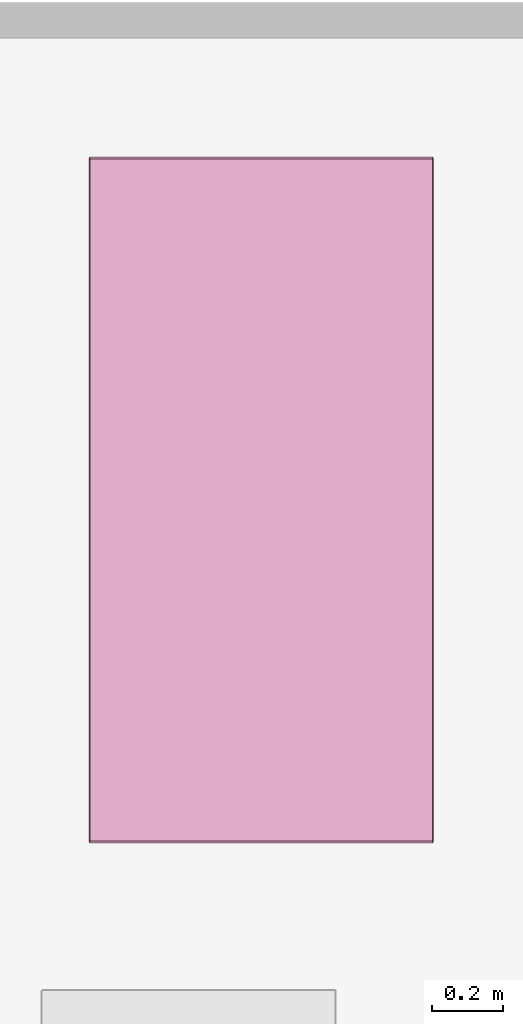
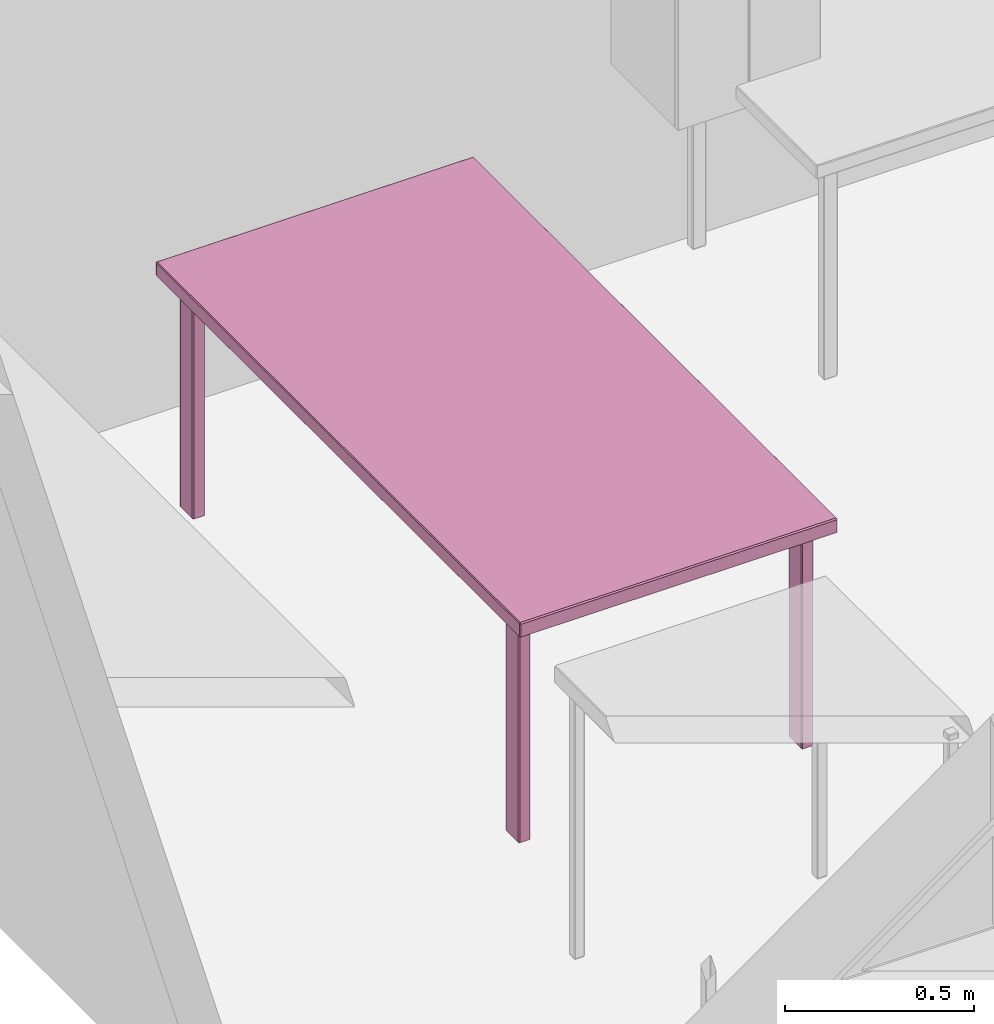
# One storey, part 7 of 9: 1 furnishing.
"""IFC2X3 building model written with IfcOpenShell, lengths in metres."""

import ifcopenshell
import ifcopenshell.guid

model = None  # the IFC model being written
_history = None  # IfcOwnerHistory: only IFC2X3 demands one
_inside = {}  # id of a spatial element -> (the spatial element, [elements in it])
_under = {}  # id of a project, library or spatial element -> (it, [spatial elements below it])
_declared = {}  # id of a project -> (the project, [libraries it declares])
_typed = {}  # id of a type object -> (the type object, [elements of that type])
_made_of = {}  # id of a material, layer set ... -> (it, [elements and type objects made of it])


def new_model(schema):
    """Start an empty IFC model of exactly this schema.

    Asked for "IFC4X3", IfcOpenShell would pick the latest addendum, in which some entities
    have other attributes; the version numbers below select the first issue.
    IFC2X3 requires an IfcOwnerHistory on every rooted entity: one is made here for all.
    """
    global model, _history
    if schema == "IFC4X3":
        model = ifcopenshell.file(schema_version=(4, 3, 0, 0))
    else:
        model = ifcopenshell.file(schema=schema)
    _inside.clear()
    _under.clear()
    _declared.clear()
    _typed.clear()
    _made_of.clear()
    _history = None
    if model.schema == "IFC2X3":
        org = make("IfcOrganization", Name="unknown")
        user = make(
            "IfcPersonAndOrganization",
            ThePerson=make("IfcPerson", FamilyName="unknown"),
            TheOrganization=org,
        )
        app = make(
            "IfcApplication",
            ApplicationDeveloper=org,
            Version="unknown",
            ApplicationFullName="unknown",
            ApplicationIdentifier="unknown",
        )
        _history = make(
            "IfcOwnerHistory",
            OwningUser=user,
            OwningApplication=app,
            ChangeAction="ADDED",
            CreationDate=0,
        )
    return model


def make(cls, **values):
    """One entity of the class cls with the attributes given. An attribute that is None is left unset."""
    return model.create_entity(
        cls, **{name: value for name, value in values.items() if value is not None}
    )


def rooted(cls, **values):
    """An entity with a GlobalId (a new one), such as an element, a storey or a relation."""
    return make(cls, GlobalId=ifcopenshell.guid.new(), OwnerHistory=_history, **values)


def si_unit(unit_type, name, prefix=None):
    """IfcSIUnit, for example si_unit("LENGTHUNIT", "METRE", prefix="MILLI")."""
    return make("IfcSIUnit", UnitType=unit_type, Prefix=prefix, Name=name)


def assignment(units):
    """IfcUnitAssignment: the units of a project."""
    return None if units is None else make("IfcUnitAssignment", Units=units)


def point(xyz):
    """IfcCartesianPoint."""
    return None if xyz is None else make("IfcCartesianPoint", Coordinates=xyz)


def direction(xyz):
    """IfcDirection."""
    return None if xyz is None else make("IfcDirection", DirectionRatios=xyz)


def frame(location, z_axis=None, x_axis=None):
    """IfcAxis2Placement3D, a coordinate frame: its origin and axes. An axis left out is left unset."""
    return make(
        "IfcAxis2Placement3D",
        Location=point(location),
        Axis=direction(z_axis),
        RefDirection=direction(x_axis),
    )


def origin_with_axes():
    """The frame at (0, 0, 0) with the z axis (0, 0, 1) and the x axis (1, 0, 0) written out."""
    return frame((0.0, 0.0, 0.0), z_axis=(0.0, 0.0, 1.0), x_axis=(1.0, 0.0, 0.0))


def place(relative_to, where):
    """IfcLocalPlacement: puts the frame where relative to a parent placement (None: the world)."""
    return make(
        "IfcLocalPlacement", PlacementRelTo=relative_to, RelativePlacement=where
    )


def context(
    kind, dimensions, precision=None, world=None, true_north=None, identifier=None
):
    """IfcGeometricRepresentationContext, for example the 3D "Model" context."""
    return make(
        "IfcGeometricRepresentationContext",
        ContextIdentifier=identifier,
        ContextType=kind,
        CoordinateSpaceDimension=dimensions,
        Precision=precision,
        WorldCoordinateSystem=world,
        TrueNorth=true_north,
    )


def project(units=None, contexts=None):
    """IfcProject with its units and contexts."""
    return rooted(
        "IfcProject",
        Name="project",
        RepresentationContexts=contexts,
        UnitsInContext=assignment(units),
    )


def spatial(cls, under=None, at=None, **own):
    """A site, building, storey or space (cls), placed at a placement, below another one or the project."""
    s = rooted(cls, ObjectPlacement=at, **own)
    if under is not None:
        _under.setdefault(under.id(), (under, []))[1].append(s)
    return s


def faces_of(points, faces, orient=None, outer=None):
    """IfcFace entities. A face is a list of loops; a loop is a list of indices into points, from 0.

    orient and outer hold one flag for each loop. By default every Orientation is true, the
    first loop of a face is its IfcFaceOuterBound and the others are IfcFaceBound.
    """
    made = []
    for i, loops in enumerate(faces):
        bounds = []
        for j, loop in enumerate(loops):
            is_outer = j == 0 if outer is None else outer[i][j]
            bounds.append(
                make(
                    "IfcFaceOuterBound" if is_outer else "IfcFaceBound",
                    Bound=make("IfcPolyLoop", Polygon=[points[k] for k in loop]),
                    Orientation=True if orient is None else orient[i][j],
                )
            )
        made.append(make("IfcFace", Bounds=bounds))
    return made


def faceted_brep(points, faces, orient=None, outer=None, voids=None):
    """IfcFacetedBrep: a solid bounded by flat faces; with voids (closed shells), ...WithVoids."""
    shared = [point(p) for p in points]
    hull = make("IfcClosedShell", CfsFaces=faces_of(shared, faces, orient, outer))
    if voids is None:
        return make("IfcFacetedBrep", Outer=hull)
    return make(
        "IfcFacetedBrepWithVoids",
        Outer=hull,
        Voids=[
            make(cls, CfsFaces=faces_of(shared, fs, o, b)) for cls, fs, o, b in voids
        ],
    )


def shape(context_of_items, identifier, shape_type, items):
    """IfcShapeRepresentation: the items that make up one representation, for example the "Body"."""
    return make(
        "IfcShapeRepresentation",
        ContextOfItems=context_of_items,
        RepresentationIdentifier=identifier,
        RepresentationType=shape_type,
        Items=items,
    )


def made_of(thing, what):
    """Note that an element or type object is made of a material, layer set ...; save() writes the relation."""
    if what is not None:
        _made_of.setdefault(what.id(), (what, []))[1].append(thing)
    return thing


def type_object(cls, material=None, **own):
    """A type object (cls), such as IfcWallType, which elements share."""
    return made_of(rooted(cls, **own), material)


def element(
    cls,
    number,
    at=None,
    inside=None,
    cuts=None,
    type_object=None,
    material=None,
    context=None,
    identifier="Body",
    shape_type=None,
    held_by="IfcProductDefinitionShape",
    body=None,
    shapes=None,
    **own,
):
    """One element of the class cls, such as IfcWall. Its Tag is "e" and its number.

    at: its placement. inside: the storey or other place that contains it. cuts: it is an
    opening in that element (IfcRelVoidsElement). A single representation is given by context,
    identifier, shape_type and body (its items); several are given by shapes. held_by: the class
    of the entity that holds the representations. save() writes the other relations.
    """
    e = rooted(cls, Tag="e%d" % number, ObjectPlacement=at, **own)
    if body is not None:
        shapes = [shape(context, identifier, shape_type, body)]
    if shapes is not None:
        e.Representation = make(held_by, Representations=shapes)
    if inside is not None:
        _inside.setdefault(inside.id(), (inside, []))[1].append(e)
    if cuts is not None:
        rooted(
            "IfcRelVoidsElement", RelatingBuildingElement=cuts, RelatedOpeningElement=e
        )
    if type_object is not None:
        _typed.setdefault(type_object.id(), (type_object, []))[1].append(e)
    return made_of(e, material)


def aggregate(whole, parts):
    """IfcRelAggregates: a whole, such as a stair, and the parts it consists of."""
    return rooted("IfcRelAggregates", RelatingObject=whole, RelatedObjects=parts)


def save(model, path):
    """Write the relations noted so far, then the file.

    IfcRelAggregates (storeys below a building ...), IfcRelContainedInSpatialStructure (elements
    in a storey), IfcRelDefinesByType, IfcRelAssociatesMaterial and IfcRelDeclares: one each for
    every whole, place, type object, material and project.
    """
    for whole, parts in _under.values():
        aggregate(whole, parts)
    for where, things in _inside.values():
        rooted(
            "IfcRelContainedInSpatialStructure",
            RelatedElements=things,
            RelatingStructure=where,
        )
    for kind, things in _typed.values():
        rooted("IfcRelDefinesByType", RelatedObjects=things, RelatingType=kind)
    for what, things in _made_of.values():
        rooted("IfcRelAssociatesMaterial", RelatedObjects=things, RelatingMaterial=what)
    for by, libraries in _declared.values():
        rooted("IfcRelDeclares", RelatingContext=by, RelatedDefinitions=libraries)
    model.write(path)


model = new_model("IFC2X3")

# Units and contexts
model_context = context("Model", 3, precision=1e-05, world=origin_with_axes())
ifc_project = project(units=[si_unit("AREAUNIT", "SQUARE_METRE"), si_unit("LENGTHUNIT", "METRE")], contexts=[model_context])

# Site, building, storey, space
site_placement = place(None, origin_with_axes())
site = spatial("IfcSite", under=ifc_project, at=site_placement, Name="Site", CompositionType="ELEMENT")
building_placement = place(site_placement, origin_with_axes())
building = spatial("IfcBuilding", under=site, at=building_placement, Name="Building", CompositionType="ELEMENT")
storey_placement = place(building_placement, frame((0.0, 0.0, 0.0500004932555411), z_axis=(0.0, 0.0, 1.0), x_axis=(1.0, 0.0, 0.0)))
storey = spatial("IfcBuildingStorey", under=building, at=storey_placement, Name="Story 0", CompositionType="ELEMENT", Elevation=0.0499999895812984)
space_placement = place(storey_placement, frame((-7.67097576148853, 2.58340758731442, 0.0), z_axis=(0.0, 0.0, 1.0), x_axis=(1.0, 0.0, 0.0)))
space = spatial("IfcSpace", under=storey, at=space_placement, Name="001", CompositionType="ELEMENT", InteriorOrExteriorSpace="INTERNAL")

# Furnishing
furniture_type = type_object("IfcFurnitureType", Name="18628ccb-6d94-45e4-96c7-7775bb619493")
furnishing_placement = place(space_placement, frame((1.73595340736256, -1.30197364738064, 0.382644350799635), z_axis=(0.0, 0.0, 0.99999988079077), x_axis=(0.999999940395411, 0.0, 0.0)))
element("IfcFurnishingElement", 1, at=furnishing_placement, inside=space, type_object=furniture_type, Name="Table", ObjectType="Table", context=model_context, shape_type="Brep", body=[
    faceted_brep([(0.4833, 0.9663, 0.3383), (-0.4833, 0.9663, 0.3383), (0.4833, 0.9663, 0.3793), (-0.4833, 0.9663, 0.3793), (0.4833, 0.9663, 0.3793), (-0.4833, 0.9663, 0.3383), (0.4143, -0.8947, 0.3469), (0.4143, -0.8314, 0.3469), (0.4143, -0.8947, -0.3793), (0.4143, -0.8314, -0.3793), (0.4143, -0.8947, -0.3793), (0.4143, -0.8314, 0.3469), (0.4486, -0.8996, 0.3469), (0.4167, -0.8996, 0.3469), (0.4486, -0.8996, -0.3793), (0.4167, -0.8996, -0.3793), (0.4486, -0.8996, -0.3793), (0.4167, -0.8996, 0.3469), (0.451, -0.8314, 0.3469), (0.451, -0.8947, 0.3469), (0.451, -0.8314, -0.3793), (0.451, -0.8947, -0.3793), (0.451, -0.8314, -0.3793), (0.451, -0.8947, 0.3469), (0.4167, -0.8265, 0.3469), (0.4486, -0.8265, 0.3469), (0.4167, -0.8265, -0.3793), (0.4486, -0.8265, -0.3793), (0.4167, -0.8265, -0.3793), (0.4486, -0.8265, 0.3469), (0.4143, 0.8947, 0.3469), (0.4143, 0.8947, -0.3793), (0.4143, 0.8314, 0.3469), (0.4143, 0.8314, -0.3793), (0.4143, 0.8314, 0.3469), (0.4143, 0.8947, -0.3793), (0.4486, 0.8996, 0.3469), (0.4486, 0.8996, -0.3793), (0.4167, 0.8996, 0.3469), (0.4167, 0.8996, -0.3793), (0.4167, 0.8996, 0.3469), (0.4486, 0.8996, -0.3793), (0.451, 0.8314, 0.3469), (0.451, 0.8314, -0.3793), (0.451, 0.8947, 0.3469), (0.451, 0.8947, -0.3793), (0.451, 0.8947, 0.3469), (0.451, 0.8314, -0.3793), (0.4167, 0.8265, 0.3469), (0.4167, 0.8265, -0.3793), (0.4486, 0.8265, 0.3469), (0.4486, 0.8265, -0.3793), (0.4486, 0.8265, 0.3469), (0.4167, 0.8265, -0.3793), (0.4857, 0.9615, 0.3383), (0.4857, 0.9615, 0.3793), (0.4857, -0.9615, 0.3383), (0.4857, -0.9615, 0.3793), (0.4857, -0.9615, 0.3383), (0.4857, 0.9615, 0.3793), (-0.4857, 0.9615, 0.3793), (-0.4857, 0.9615, 0.3383), (-0.4857, -0.9615, 0.3793), (-0.4857, -0.9615, 0.3383), (-0.4857, -0.9615, 0.3793), (-0.4857, 0.9615, 0.3383), (-0.4143, -0.8947, 0.3469), (-0.4143, -0.8947, -0.3793), (-0.4143, -0.8314, 0.3469), (-0.4143, -0.8314, -0.3793), (-0.4143, -0.8314, 0.3469), (-0.4143, -0.8947, -0.3793), (-0.4486, -0.8996, 0.3469), (-0.4486, -0.8996, -0.3793), (-0.4167, -0.8996, 0.3469), (-0.4167, -0.8996, -0.3793), (-0.4167, -0.8996, 0.3469), (-0.4486, -0.8996, -0.3793), (-0.451, -0.8314, 0.3469), (-0.451, -0.8314, -0.3793), (-0.451, -0.8947, 0.3469), (-0.451, -0.8947, -0.3793), (-0.451, -0.8947, 0.3469), (-0.451, -0.8314, -0.3793), (-0.4167, -0.8265, 0.3469), (-0.4167, -0.8265, -0.3793), (-0.4486, -0.8265, 0.3469), (-0.4486, -0.8265, -0.3793), (-0.4486, -0.8265, 0.3469), (-0.4167, -0.8265, -0.3793), (-0.4143, 0.8947, 0.3469), (-0.4143, 0.8314, 0.3469), (-0.4143, 0.8947, -0.3793), (-0.4143, 0.8314, -0.3793), (-0.4143, 0.8947, -0.3793), (-0.4143, 0.8314, 0.3469), (-0.4486, 0.8996, 0.3469), (-0.4167, 0.8996, 0.3469), (-0.4486, 0.8996, -0.3793), (-0.4167, 0.8996, -0.3793), (-0.4486, 0.8996, -0.3793), (-0.4167, 0.8996, 0.3469), (-0.451, 0.8314, 0.3469), (-0.451, 0.8947, 0.3469), (-0.451, 0.8314, -0.3793), (-0.451, 0.8947, -0.3793), (-0.451, 0.8314, -0.3793), (-0.451, 0.8947, 0.3469), (-0.4167, 0.8265, 0.3469), (-0.4486, 0.8265, 0.3469), (-0.4167, 0.8265, -0.3793), (-0.4486, 0.8265, -0.3793), (-0.4167, 0.8265, -0.3793), (-0.4486, 0.8265, 0.3469), (-0.4833, 0.9615, 0.3826), (-0.4833, -0.9615, 0.3826), (0.4833, 0.9615, 0.3826), (0.4833, -0.9615, 0.3826), (0.4833, 0.9615, 0.3826), (-0.4833, -0.9615, 0.3826), (0.4833, -0.9663, 0.3383), (0.4833, -0.9663, 0.3793), (-0.4833, -0.9663, 0.3383), (-0.4833, -0.9663, 0.3793), (-0.4833, -0.9663, 0.3383), (0.4833, -0.9663, 0.3793), (0.4833, -0.9615, 0.3349), (-0.4833, -0.9615, 0.3349), (0.4833, 0.9615, 0.3349), (-0.4833, 0.9615, 0.3349), (0.4833, 0.9615, 0.3349), (-0.4833, -0.9615, 0.3349), (0.4486, -0.8947, 0.3502), (0.4486, -0.8314, 0.3502), (0.4167, -0.8947, 0.3502), (0.4167, -0.8314, 0.3502), (0.4167, -0.8947, 0.3502), (0.4486, -0.8314, 0.3502), (0.4486, -0.8314, -0.3826), (0.4486, -0.8947, -0.3826), (0.4167, -0.8314, -0.3826), (0.4167, -0.8947, -0.3826), (0.4167, -0.8314, -0.3826), (0.4486, -0.8947, -0.3826), (0.4486, 0.8947, -0.3826), (0.4486, 0.8314, -0.3826), (0.4167, 0.8947, -0.3826), (0.4167, 0.8314, -0.3826), (0.4167, 0.8947, -0.3826), (0.4486, 0.8314, -0.3826), (0.4486, 0.8314, 0.3502), (0.4486, 0.8947, 0.3502), (0.4167, 0.8314, 0.3502), (0.4167, 0.8947, 0.3502), (0.4167, 0.8314, 0.3502), (0.4486, 0.8947, 0.3502), (-0.4486, -0.8947, -0.3826), (-0.4486, -0.8314, -0.3826), (-0.4167, -0.8947, -0.3826), (-0.4167, -0.8314, -0.3826), (-0.4167, -0.8947, -0.3826), (-0.4486, -0.8314, -0.3826), (-0.4486, -0.8314, 0.3502), (-0.4486, -0.8947, 0.3502), (-0.4167, -0.8314, 0.3502), (-0.4167, -0.8947, 0.3502), (-0.4167, -0.8314, 0.3502), (-0.4486, -0.8947, 0.3502), (-0.4486, 0.8947, 0.3502), (-0.4486, 0.8314, 0.3502), (-0.4167, 0.8947, 0.3502), (-0.4167, 0.8314, 0.3502), (-0.4167, 0.8947, 0.3502), (-0.4486, 0.8314, 0.3502), (-0.4486, 0.8314, -0.3826), (-0.4486, 0.8947, -0.3826), (-0.4167, 0.8314, -0.3826), (-0.4167, 0.8947, -0.3826), (-0.4167, 0.8314, -0.3826), (-0.4486, 0.8947, -0.3826), (-0.4833, 0.9615, 0.3826), (-0.4833, 0.9663, 0.3793), (-0.4857, 0.9615, 0.3793), (0.4167, -0.8314, -0.3826), (0.4143, -0.8314, -0.3793), (0.4167, -0.8265, -0.3793), (0.4167, -0.8947, -0.3826), (0.4167, -0.8996, -0.3793), (0.4143, -0.8947, -0.3793), (0.4486, -0.8947, -0.3826), (0.451, -0.8947, -0.3793), (0.4486, -0.8996, -0.3793), (0.4486, -0.8314, -0.3826), (0.4486, -0.8265, -0.3793), (0.451, -0.8314, -0.3793), (0.4167, -0.8314, 0.3502), (0.4167, -0.8265, 0.3469), (0.4143, -0.8314, 0.3469), (0.4167, 0.8265, -0.3793), (0.4143, 0.8314, -0.3793), (0.4167, 0.8314, -0.3826), (0.4167, 0.8947, 0.3502), (0.4167, 0.8996, 0.3469), (0.4143, 0.8947, 0.3469), (0.4486, 0.8947, 0.3502), (0.451, 0.8947, 0.3469), (0.4486, 0.8996, 0.3469), (0.4486, 0.8314, 0.3502), (0.4486, 0.8265, 0.3469), (0.451, 0.8314, 0.3469), (0.4833, -0.9663, 0.3793), (0.4857, -0.9615, 0.3793), (0.4833, -0.9615, 0.3826), (0.4833, 0.9615, 0.3826), (0.4857, 0.9615, 0.3793), (0.4833, 0.9663, 0.3793), (-0.4833, -0.9663, 0.3383), (-0.4857, -0.9615, 0.3383), (-0.4833, -0.9615, 0.3349), (-0.4833, 0.9615, 0.3349), (-0.4857, 0.9615, 0.3383), (-0.4833, 0.9663, 0.3383), (-0.4167, -0.8265, -0.3793), (-0.4143, -0.8314, -0.3793), (-0.4167, -0.8314, -0.3826), (-0.4167, -0.8947, 0.3502), (-0.4167, -0.8996, 0.3469), (-0.4143, -0.8947, 0.3469), (-0.4486, -0.8947, 0.3502), (-0.451, -0.8947, 0.3469), (-0.4486, -0.8996, 0.3469), (-0.4486, -0.8314, 0.3502), (-0.4486, -0.8265, 0.3469), (-0.451, -0.8314, 0.3469), (-0.4167, 0.8314, -0.3826), (-0.4143, 0.8314, -0.3793), (-0.4167, 0.8265, -0.3793), (-0.4167, 0.8947, -0.3826), (-0.4167, 0.8996, -0.3793), (-0.4143, 0.8947, -0.3793), (-0.4486, 0.8947, -0.3826), (-0.451, 0.8947, -0.3793), (-0.4486, 0.8996, -0.3793), (-0.4486, 0.8314, -0.3826), (-0.4486, 0.8265, -0.3793), (-0.451, 0.8314, -0.3793), (-0.4167, 0.8314, 0.3502), (-0.4167, 0.8265, 0.3469), (-0.4143, 0.8314, 0.3469), (-0.4833, -0.9663, 0.3793), (-0.4833, -0.9615, 0.3826), (-0.4857, -0.9615, 0.3793), (0.4833, -0.9663, 0.3383), (0.4833, -0.9615, 0.3349), (0.4857, -0.9615, 0.3383), (0.4857, 0.9615, 0.3383), (0.4833, 0.9615, 0.3349), (0.4833, 0.9663, 0.3383), (0.4486, -0.8265, 0.3469), (0.4486, -0.8314, 0.3502), (0.451, -0.8314, 0.3469), (0.451, -0.8947, 0.3469), (0.4486, -0.8947, 0.3502), (0.4486, -0.8996, 0.3469), (0.4167, -0.8996, 0.3469), (0.4167, -0.8947, 0.3502), (0.4143, -0.8947, 0.3469), (0.4486, 0.8265, -0.3793), (0.4486, 0.8314, -0.3826), (0.451, 0.8314, -0.3793), (0.451, 0.8947, -0.3793), (0.4486, 0.8947, -0.3826), (0.4486, 0.8996, -0.3793), (0.4167, 0.8996, -0.3793), (0.4167, 0.8947, -0.3826), (0.4143, 0.8947, -0.3793), (0.4167, 0.8265, 0.3469), (0.4167, 0.8314, 0.3502), (0.4143, 0.8314, 0.3469), (-0.4486, -0.8265, -0.3793), (-0.4486, -0.8314, -0.3826), (-0.451, -0.8314, -0.3793), (-0.451, -0.8947, -0.3793), (-0.4486, -0.8947, -0.3826), (-0.4486, -0.8996, -0.3793), (-0.4167, -0.8996, -0.3793), (-0.4167, -0.8947, -0.3826), (-0.4143, -0.8947, -0.3793), (-0.4167, -0.8265, 0.3469), (-0.4167, -0.8314, 0.3502), (-0.4143, -0.8314, 0.3469), (-0.4486, 0.8265, 0.3469), (-0.4486, 0.8314, 0.3502), (-0.451, 0.8314, 0.3469), (-0.451, 0.8947, 0.3469), (-0.4486, 0.8947, 0.3502), (-0.4486, 0.8996, 0.3469), (-0.4167, 0.8996, 0.3469), (-0.4167, 0.8947, 0.3502), (-0.4143, 0.8947, 0.3469), (-0.4833, 0.9663, 0.3793), (-0.4833, 0.9663, 0.3383), (-0.4857, 0.9615, 0.3793), (-0.4857, 0.9615, 0.3383), (-0.4857, 0.9615, 0.3793), (-0.4833, 0.9663, 0.3383), (-0.4833, 0.9663, 0.3383), (0.4833, 0.9663, 0.3383), (-0.4833, 0.9615, 0.3349), (0.4833, 0.9615, 0.3349), (-0.4833, 0.9615, 0.3349), (0.4833, 0.9663, 0.3383), (0.4833, 0.9663, 0.3383), (0.4833, 0.9663, 0.3793), (0.4857, 0.9615, 0.3383), (0.4857, 0.9615, 0.3793), (0.4857, 0.9615, 0.3383), (0.4833, 0.9663, 0.3793), (0.4833, 0.9663, 0.3793), (-0.4833, 0.9663, 0.3793), (0.4833, 0.9615, 0.3826), (-0.4833, 0.9615, 0.3826), (0.4833, 0.9615, 0.3826), (-0.4833, 0.9663, 0.3793), (0.4143, -0.8314, -0.3793), (0.4143, -0.8314, 0.3469), (0.4167, -0.8265, -0.3793), (0.4167, -0.8265, 0.3469), (0.4167, -0.8265, -0.3793), (0.4143, -0.8314, 0.3469), (0.4143, -0.8314, 0.3469), (0.4143, -0.8947, 0.3469), (0.4167, -0.8314, 0.3502), (0.4167, -0.8947, 0.3502), (0.4167, -0.8314, 0.3502), (0.4143, -0.8947, 0.3469), (0.4143, -0.8947, 0.3469), (0.4143, -0.8947, -0.3793), (0.4167, -0.8996, 0.3469), (0.4167, -0.8996, -0.3793), (0.4167, -0.8996, 0.3469), (0.4143, -0.8947, -0.3793), (0.4143, -0.8947, -0.3793), (0.4143, -0.8314, -0.3793), (0.4167, -0.8947, -0.3826), (0.4167, -0.8314, -0.3826), (0.4167, -0.8947, -0.3826), (0.4143, -0.8314, -0.3793), (0.4167, -0.8996, 0.3469), (0.4486, -0.8996, 0.3469), (0.4167, -0.8947, 0.3502), (0.4486, -0.8947, 0.3502), (0.4167, -0.8947, 0.3502), (0.4486, -0.8996, 0.3469), (0.4486, -0.8996, 0.3469), (0.4486, -0.8996, -0.3793), (0.451, -0.8947, 0.3469), (0.451, -0.8947, -0.3793), (0.451, -0.8947, 0.3469), (0.4486, -0.8996, -0.3793), (0.4486, -0.8996, -0.3793), (0.4167, -0.8996, -0.3793), (0.4486, -0.8947, -0.3826), (0.4167, -0.8947, -0.3826), (0.4486, -0.8947, -0.3826), (0.4167, -0.8996, -0.3793), (0.451, -0.8947, 0.3469), (0.451, -0.8314, 0.3469), (0.4486, -0.8947, 0.3502), (0.4486, -0.8314, 0.3502), (0.4486, -0.8947, 0.3502), (0.451, -0.8314, 0.3469), (0.451, -0.8314, 0.3469), (0.451, -0.8314, -0.3793), (0.4486, -0.8265, 0.3469), (0.4486, -0.8265, -0.3793), (0.4486, -0.8265, 0.3469), (0.451, -0.8314, -0.3793), (0.451, -0.8314, -0.3793), (0.451, -0.8947, -0.3793), (0.4486, -0.8314, -0.3826), (0.4486, -0.8947, -0.3826), (0.4486, -0.8314, -0.3826), (0.451, -0.8947, -0.3793), (0.4486, -0.8265, 0.3469), (0.4167, -0.8265, 0.3469), (0.4486, -0.8314, 0.3502), (0.4167, -0.8314, 0.3502), (0.4486, -0.8314, 0.3502), (0.4167, -0.8265, 0.3469), (0.4167, -0.8265, -0.3793), (0.4486, -0.8265, -0.3793), (0.4167, -0.8314, -0.3826), (0.4486, -0.8314, -0.3826), (0.4167, -0.8314, -0.3826), (0.4486, -0.8265, -0.3793), (0.4143, 0.8314, -0.3793), (0.4143, 0.8947, -0.3793), (0.4167, 0.8314, -0.3826), (0.4167, 0.8947, -0.3826), (0.4167, 0.8314, -0.3826), (0.4143, 0.8947, -0.3793), (0.4143, 0.8947, -0.3793), (0.4143, 0.8947, 0.3469), (0.4167, 0.8996, -0.3793), (0.4167, 0.8996, 0.3469), (0.4167, 0.8996, -0.3793), (0.4143, 0.8947, 0.3469), (0.4143, 0.8947, 0.3469), (0.4143, 0.8314, 0.3469), (0.4167, 0.8947, 0.3502), (0.4167, 0.8314, 0.3502), (0.4167, 0.8947, 0.3502), (0.4143, 0.8314, 0.3469), (0.4143, 0.8314, 0.3469), (0.4143, 0.8314, -0.3793), (0.4167, 0.8265, 0.3469), (0.4167, 0.8265, -0.3793), (0.4167, 0.8265, 0.3469), (0.4143, 0.8314, -0.3793), (0.4167, 0.8996, -0.3793), (0.4486, 0.8996, -0.3793), (0.4167, 0.8947, -0.3826), (0.4486, 0.8947, -0.3826), (0.4167, 0.8947, -0.3826), (0.4486, 0.8996, -0.3793), (0.4486, 0.8996, -0.3793), (0.4486, 0.8996, 0.3469), (0.451, 0.8947, -0.3793), (0.451, 0.8947, 0.3469), (0.451, 0.8947, -0.3793), (0.4486, 0.8996, 0.3469), (0.4486, 0.8996, 0.3469), (0.4167, 0.8996, 0.3469), (0.4486, 0.8947, 0.3502), (0.4167, 0.8947, 0.3502), (0.4486, 0.8947, 0.3502), (0.4167, 0.8996, 0.3469), (0.451, 0.8947, -0.3793), (0.451, 0.8314, -0.3793), (0.4486, 0.8947, -0.3826), (0.4486, 0.8314, -0.3826), (0.4486, 0.8947, -0.3826), (0.451, 0.8314, -0.3793), (0.451, 0.8314, -0.3793), (0.451, 0.8314, 0.3469), (0.4486, 0.8265, -0.3793), (0.4486, 0.8265, 0.3469), (0.4486, 0.8265, -0.3793), (0.451, 0.8314, 0.3469), (0.451, 0.8314, 0.3469), (0.451, 0.8947, 0.3469), (0.4486, 0.8314, 0.3502), (0.4486, 0.8947, 0.3502), (0.4486, 0.8314, 0.3502), (0.451, 0.8947, 0.3469), (0.4486, 0.8265, -0.3793), (0.4167, 0.8265, -0.3793), (0.4486, 0.8314, -0.3826), (0.4167, 0.8314, -0.3826), (0.4486, 0.8314, -0.3826), (0.4167, 0.8265, -0.3793), (0.4167, 0.8265, 0.3469), (0.4486, 0.8265, 0.3469), (0.4167, 0.8314, 0.3502), (0.4486, 0.8314, 0.3502), (0.4167, 0.8314, 0.3502), (0.4486, 0.8265, 0.3469), (0.4857, -0.9615, 0.3793), (0.4857, 0.9615, 0.3793), (0.4833, -0.9615, 0.3826), (0.4833, 0.9615, 0.3826), (0.4833, -0.9615, 0.3826), (0.4857, 0.9615, 0.3793), (0.4857, 0.9615, 0.3383), (0.4857, -0.9615, 0.3383), (0.4833, 0.9615, 0.3349), (0.4833, -0.9615, 0.3349), (0.4833, 0.9615, 0.3349), (0.4857, -0.9615, 0.3383), (0.4857, -0.9615, 0.3383), (0.4857, -0.9615, 0.3793), (0.4833, -0.9663, 0.3383), (0.4833, -0.9663, 0.3793), (0.4833, -0.9663, 0.3383), (0.4857, -0.9615, 0.3793), (-0.4857, -0.9615, 0.3383), (-0.4857, 0.9615, 0.3383), (-0.4833, -0.9615, 0.3349), (-0.4833, 0.9615, 0.3349), (-0.4833, -0.9615, 0.3349), (-0.4857, 0.9615, 0.3383), (-0.4857, 0.9615, 0.3793), (-0.4857, -0.9615, 0.3793), (-0.4833, 0.9615, 0.3826), (-0.4833, -0.9615, 0.3826), (-0.4833, 0.9615, 0.3826), (-0.4857, -0.9615, 0.3793), (-0.4857, -0.9615, 0.3793), (-0.4857, -0.9615, 0.3383), (-0.4833, -0.9663, 0.3793), (-0.4833, -0.9663, 0.3383), (-0.4833, -0.9663, 0.3793), (-0.4857, -0.9615, 0.3383), (-0.4143, -0.8314, -0.3793), (-0.4143, -0.8947, -0.3793), (-0.4167, -0.8314, -0.3826), (-0.4167, -0.8947, -0.3826), (-0.4167, -0.8314, -0.3826), (-0.4143, -0.8947, -0.3793), (-0.4143, -0.8947, -0.3793), (-0.4143, -0.8947, 0.3469), (-0.4167, -0.8996, -0.3793), (-0.4167, -0.8996, 0.3469), (-0.4167, -0.8996, -0.3793), (-0.4143, -0.8947, 0.3469), (-0.4143, -0.8947, 0.3469), (-0.4143, -0.8314, 0.3469), (-0.4167, -0.8947, 0.3502), (-0.4167, -0.8314, 0.3502), (-0.4167, -0.8947, 0.3502), (-0.4143, -0.8314, 0.3469), (-0.4143, -0.8314, 0.3469), (-0.4143, -0.8314, -0.3793), (-0.4167, -0.8265, 0.3469), (-0.4167, -0.8265, -0.3793), (-0.4167, -0.8265, 0.3469), (-0.4143, -0.8314, -0.3793), (-0.4167, -0.8996, -0.3793), (-0.4486, -0.8996, -0.3793), (-0.4167, -0.8947, -0.3826), (-0.4486, -0.8947, -0.3826), (-0.4167, -0.8947, -0.3826), (-0.4486, -0.8996, -0.3793), (-0.4486, -0.8996, -0.3793), (-0.4486, -0.8996, 0.3469), (-0.451, -0.8947, -0.3793), (-0.451, -0.8947, 0.3469), (-0.451, -0.8947, -0.3793), (-0.4486, -0.8996, 0.3469), (-0.4486, -0.8996, 0.3469), (-0.4167, -0.8996, 0.3469), (-0.4486, -0.8947, 0.3502), (-0.4167, -0.8947, 0.3502), (-0.4486, -0.8947, 0.3502), (-0.4167, -0.8996, 0.3469), (-0.451, -0.8947, -0.3793), (-0.451, -0.8314, -0.3793), (-0.4486, -0.8947, -0.3826), (-0.4486, -0.8314, -0.3826), (-0.4486, -0.8947, -0.3826), (-0.451, -0.8314, -0.3793), (-0.451, -0.8314, -0.3793), (-0.451, -0.8314, 0.3469), (-0.4486, -0.8265, -0.3793), (-0.4486, -0.8265, 0.3469), (-0.4486, -0.8265, -0.3793), (-0.451, -0.8314, 0.3469), (-0.451, -0.8314, 0.3469), (-0.451, -0.8947, 0.3469), (-0.4486, -0.8314, 0.3502), (-0.4486, -0.8947, 0.3502), (-0.4486, -0.8314, 0.3502), (-0.451, -0.8947, 0.3469), (-0.4486, -0.8265, -0.3793), (-0.4167, -0.8265, -0.3793), (-0.4486, -0.8314, -0.3826), (-0.4167, -0.8314, -0.3826), (-0.4486, -0.8314, -0.3826), (-0.4167, -0.8265, -0.3793), (-0.4167, -0.8265, 0.3469), (-0.4486, -0.8265, 0.3469), (-0.4167, -0.8314, 0.3502), (-0.4486, -0.8314, 0.3502), (-0.4167, -0.8314, 0.3502), (-0.4486, -0.8265, 0.3469), (-0.4143, 0.8314, -0.3793), (-0.4143, 0.8314, 0.3469), (-0.4167, 0.8265, -0.3793), (-0.4167, 0.8265, 0.3469), (-0.4167, 0.8265, -0.3793), (-0.4143, 0.8314, 0.3469), (-0.4143, 0.8314, 0.3469), (-0.4143, 0.8947, 0.3469), (-0.4167, 0.8314, 0.3502), (-0.4167, 0.8947, 0.3502), (-0.4167, 0.8314, 0.3502), (-0.4143, 0.8947, 0.3469), (-0.4143, 0.8947, 0.3469), (-0.4143, 0.8947, -0.3793), (-0.4167, 0.8996, 0.3469), (-0.4167, 0.8996, -0.3793), (-0.4167, 0.8996, 0.3469), (-0.4143, 0.8947, -0.3793), (-0.4143, 0.8947, -0.3793), (-0.4143, 0.8314, -0.3793), (-0.4167, 0.8947, -0.3826), (-0.4167, 0.8314, -0.3826), (-0.4167, 0.8947, -0.3826), (-0.4143, 0.8314, -0.3793), (-0.4167, 0.8996, 0.3469), (-0.4486, 0.8996, 0.3469), (-0.4167, 0.8947, 0.3502), (-0.4486, 0.8947, 0.3502), (-0.4167, 0.8947, 0.3502), (-0.4486, 0.8996, 0.3469), (-0.4486, 0.8996, 0.3469), (-0.4486, 0.8996, -0.3793), (-0.451, 0.8947, 0.3469), (-0.451, 0.8947, -0.3793), (-0.451, 0.8947, 0.3469), (-0.4486, 0.8996, -0.3793), (-0.4486, 0.8996, -0.3793), (-0.4167, 0.8996, -0.3793), (-0.4486, 0.8947, -0.3826), (-0.4167, 0.8947, -0.3826), (-0.4486, 0.8947, -0.3826), (-0.4167, 0.8996, -0.3793), (-0.451, 0.8947, 0.3469), (-0.451, 0.8314, 0.3469), (-0.4486, 0.8947, 0.3502), (-0.4486, 0.8314, 0.3502), (-0.4486, 0.8947, 0.3502), (-0.451, 0.8314, 0.3469), (-0.451, 0.8314, 0.3469), (-0.451, 0.8314, -0.3793), (-0.4486, 0.8265, 0.3469), (-0.4486, 0.8265, -0.3793), (-0.4486, 0.8265, 0.3469), (-0.451, 0.8314, -0.3793), (-0.451, 0.8314, -0.3793), (-0.451, 0.8947, -0.3793), (-0.4486, 0.8314, -0.3826), (-0.4486, 0.8947, -0.3826), (-0.4486, 0.8314, -0.3826), (-0.451, 0.8947, -0.3793), (-0.4486, 0.8265, 0.3469), (-0.4167, 0.8265, 0.3469), (-0.4486, 0.8314, 0.3502), (-0.4167, 0.8314, 0.3502), (-0.4486, 0.8314, 0.3502), (-0.4167, 0.8265, 0.3469), (-0.4167, 0.8265, -0.3793), (-0.4486, 0.8265, -0.3793), (-0.4167, 0.8314, -0.3826), (-0.4486, 0.8314, -0.3826), (-0.4167, 0.8314, -0.3826), (-0.4486, 0.8265, -0.3793), (0.4833, -0.9615, 0.3826), (-0.4833, -0.9615, 0.3826), (0.4833, -0.9663, 0.3793), (-0.4833, -0.9663, 0.3793), (0.4833, -0.9663, 0.3793), (-0.4833, -0.9615, 0.3826), (0.4833, -0.9663, 0.3383), (-0.4833, -0.9663, 0.3383), (0.4833, -0.9615, 0.3349), (-0.4833, -0.9615, 0.3349), (0.4833, -0.9615, 0.3349), (-0.4833, -0.9663, 0.3383)], [[[0, 1, 2]], [[3, 4, 5]], [[6, 7, 8]], [[9, 10, 11]], [[12, 13, 14]], [[15, 16, 17]], [[18, 19, 20]], [[21, 22, 23]], [[24, 25, 26]], [[27, 28, 29]], [[30, 31, 32]], [[33, 34, 35]], [[36, 37, 38]], [[39, 40, 41]], [[42, 43, 44]], [[45, 46, 47]], [[48, 49, 50]], [[51, 52, 53]], [[54, 55, 56]], [[57, 58, 59]], [[60, 61, 62]], [[63, 64, 65]], [[66, 67, 68]], [[69, 70, 71]], [[72, 73, 74]], [[75, 76, 77]], [[78, 79, 80]], [[81, 82, 83]], [[84, 85, 86]], [[87, 88, 89]], [[90, 91, 92]], [[93, 94, 95]], [[96, 97, 98]], [[99, 100, 101]], [[102, 103, 104]], [[105, 106, 107]], [[108, 109, 110]], [[111, 112, 113]], [[114, 115, 116]], [[117, 118, 119]], [[120, 121, 122]], [[123, 124, 125]], [[126, 127, 128]], [[129, 130, 131]], [[132, 133, 134]], [[135, 136, 137]], [[138, 139, 140]], [[141, 142, 143]], [[144, 145, 146]], [[147, 148, 149]], [[150, 151, 152]], [[153, 154, 155]], [[156, 157, 158]], [[159, 160, 161]], [[162, 163, 164]], [[165, 166, 167]], [[168, 169, 170]], [[171, 172, 173]], [[174, 175, 176]], [[177, 178, 179]], [[180, 181, 182]], [[183, 184, 185]], [[186, 187, 188]], [[189, 190, 191]], [[192, 193, 194]], [[195, 196, 197]], [[198, 199, 200]], [[201, 202, 203]], [[204, 205, 206]], [[207, 208, 209]], [[210, 211, 212]], [[213, 214, 215]], [[216, 217, 218]], [[219, 220, 221]], [[222, 223, 224]], [[225, 226, 227]], [[228, 229, 230]], [[231, 232, 233]], [[234, 235, 236]], [[237, 238, 239]], [[240, 241, 242]], [[243, 244, 245]], [[246, 247, 248]], [[249, 250, 251]], [[252, 253, 254]], [[255, 256, 257]], [[258, 259, 260]], [[261, 262, 263]], [[264, 265, 266]], [[267, 268, 269]], [[270, 271, 272]], [[273, 274, 275]], [[276, 277, 278]], [[279, 280, 281]], [[282, 283, 284]], [[285, 286, 287]], [[288, 289, 290]], [[291, 292, 293]], [[294, 295, 296]], [[297, 298, 299]], [[300, 301, 302]], [[303, 304, 305]], [[306, 307, 308]], [[309, 310, 311]], [[312, 313, 314]], [[315, 316, 317]], [[318, 319, 320]], [[321, 322, 323]], [[324, 325, 326]], [[327, 328, 329]], [[330, 331, 332]], [[333, 334, 335]], [[336, 337, 338]], [[339, 340, 341]], [[342, 343, 344]], [[345, 346, 347]], [[348, 349, 350]], [[351, 352, 353]], [[354, 355, 356]], [[357, 358, 359]], [[360, 361, 362]], [[363, 364, 365]], [[366, 367, 368]], [[369, 370, 371]], [[372, 373, 374]], [[375, 376, 377]], [[378, 379, 380]], [[381, 382, 383]], [[384, 385, 386]], [[387, 388, 389]], [[390, 391, 392]], [[393, 394, 395]], [[396, 397, 398]], [[399, 400, 401]], [[402, 403, 404]], [[405, 406, 407]], [[408, 409, 410]], [[411, 412, 413]], [[414, 415, 416]], [[417, 418, 419]], [[420, 421, 422]], [[423, 424, 425]], [[426, 427, 428]], [[429, 430, 431]], [[432, 433, 434]], [[435, 436, 437]], [[438, 439, 440]], [[441, 442, 443]], [[444, 445, 446]], [[447, 448, 449]], [[450, 451, 452]], [[453, 454, 455]], [[456, 457, 458]], [[459, 460, 461]], [[462, 463, 464]], [[465, 466, 467]], [[468, 469, 470]], [[471, 472, 473]], [[474, 475, 476]], [[477, 478, 479]], [[480, 481, 482]], [[483, 484, 485]], [[486, 487, 488]], [[489, 490, 491]], [[492, 493, 494]], [[495, 496, 497]], [[498, 499, 500]], [[501, 502, 503]], [[504, 505, 506]], [[507, 508, 509]], [[510, 511, 512]], [[513, 514, 515]], [[516, 517, 518]], [[519, 520, 521]], [[522, 523, 524]], [[525, 526, 527]], [[528, 529, 530]], [[531, 532, 533]], [[534, 535, 536]], [[537, 538, 539]], [[540, 541, 542]], [[543, 544, 545]], [[546, 547, 548]], [[549, 550, 551]], [[552, 553, 554]], [[555, 556, 557]], [[558, 559, 560]], [[561, 562, 563]], [[564, 565, 566]], [[567, 568, 569]], [[570, 571, 572]], [[573, 574, 575]], [[576, 577, 578]], [[579, 580, 581]], [[582, 583, 584]], [[585, 586, 587]], [[588, 589, 590]], [[591, 592, 593]], [[594, 595, 596]], [[597, 598, 599]], [[600, 601, 602]], [[603, 604, 605]], [[606, 607, 608]], [[609, 610, 611]], [[612, 613, 614]], [[615, 616, 617]], [[618, 619, 620]], [[621, 622, 623]], [[624, 625, 626]], [[627, 628, 629]], [[630, 631, 632]], [[633, 634, 635]], [[636, 637, 638]], [[639, 640, 641]], [[642, 643, 644]], [[645, 646, 647]], [[648, 649, 650]], [[651, 652, 653]], [[654, 655, 656]], [[657, 658, 659]]]),
])

save(model, "model.ifc")
